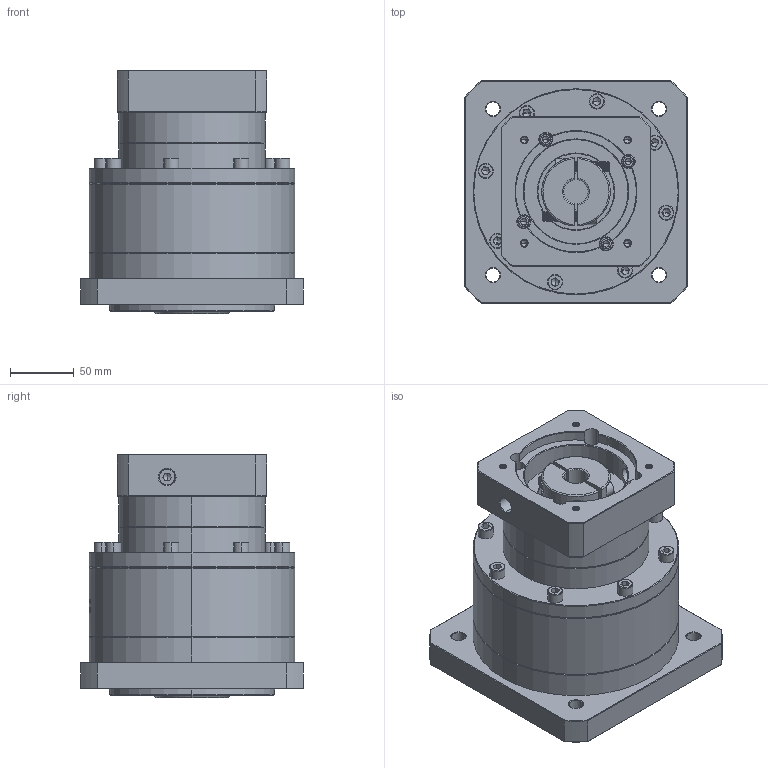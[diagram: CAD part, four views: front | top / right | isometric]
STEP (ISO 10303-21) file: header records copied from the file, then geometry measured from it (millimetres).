
FILE_DESCRIPTION (( 'STEP AP214' ), '1' );
FILE_NAME ('ZF160-K35-L2-19-95-115-M6.step', '2023-03-22T03:58:30', ( '' ), ( '' ), 'SwSTEP 2.0', 'SolidWorks 2016', '' );
FILE_SCHEMA (( 'AUTOMOTIVE_DESIGN' ));
Length unit declared in the file: millimetre
Products named in the file (1): ZF160-K35-L2-19-95-115-M6
Bounding box: 175 x 175 x 191.7 mm (x, y, z)
Volume: 3130315.2 mm3; surface area: 247037 mm2
Topology: 6 solids, 6 shells, 1814 faces, 4602 edges, 2909 vertices
Faces by surface type: plane 739, cylinder 446, cone 368, bspline 225, torus 36
Entity records: 92738 total; most frequent: CARTESIAN_POINT 31144, ORIENTED_EDGE 9100, DIRECTION 8051, EDGE_CURVE 4550, VERTEX_POINT 2909, AXIS2_PLACEMENT_3D 2803, LINE 2445, VECTOR 2445
